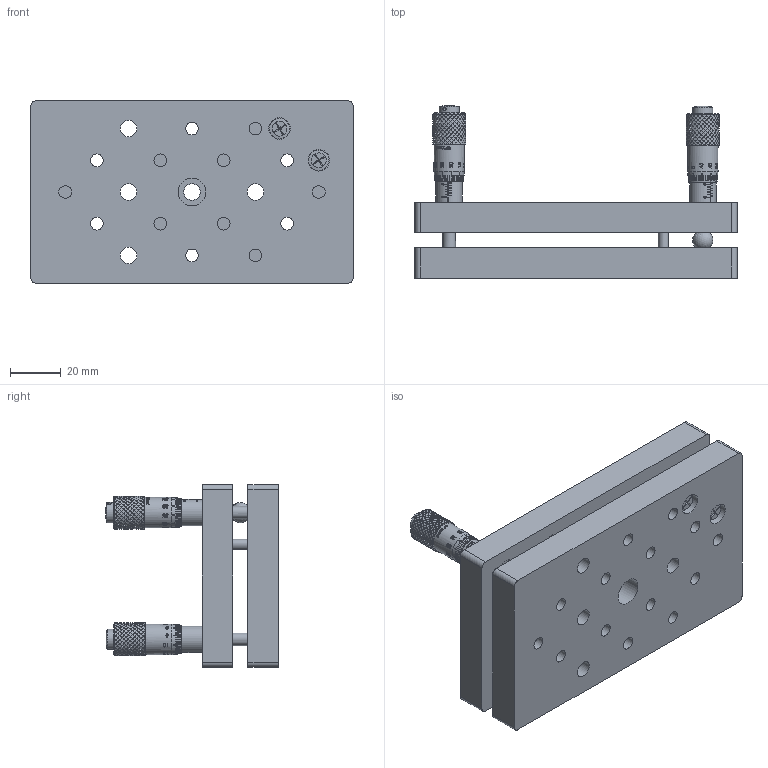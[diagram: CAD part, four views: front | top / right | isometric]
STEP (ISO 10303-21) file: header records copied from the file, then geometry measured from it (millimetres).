
FILE_DESCRIPTION (( 'STEP AP203' ), '1' );
FILE_NAME ('(舊版)M-TP-1.STEP', '2022-09-14T03:48:49', ( '' ), ( '' ), 'SwSTEP 2.0', 'SolidWorks 2019', '' );
FILE_SCHEMA (( 'CONFIG_CONTROL_DESIGN' ));
Length unit declared in the file: millimetre
Products named in the file (1): (舊版)M-TP-1
Bounding box: 127 x 68.1 x 72 mm (x, y, z)
Volume: 210088.3 mm3; surface area: 63081.2 mm2
Topology: 9 solids, 37 shells, 4075 faces, 11448 edges, 7621 vertices
Faces by surface type: bspline 2232, cylinder 1066, plane 735, cone 36, sphere 6
Full cylindrical faces by diameter (mm): 1.4 x2, 4 x2, 4.5 x4, 5 x28, 6 x13, 6.5 x5, 7.3 x2, 8 x28, 8.5 x4, 9.5 x2, 10 x2, 11 x12, 12 x4
Entity records: 343973 total; most frequent: CARTESIAN_POINT 265952, ORIENTED_EDGE 22566, EDGE_CURVE 11283, DIRECTION 8186, VERTEX_POINT 7601, EDGE_LOOP 4474, FACE_OUTER_BOUND 4157, B_SPLINE_CURVE_WITH_KNOTS 4118
